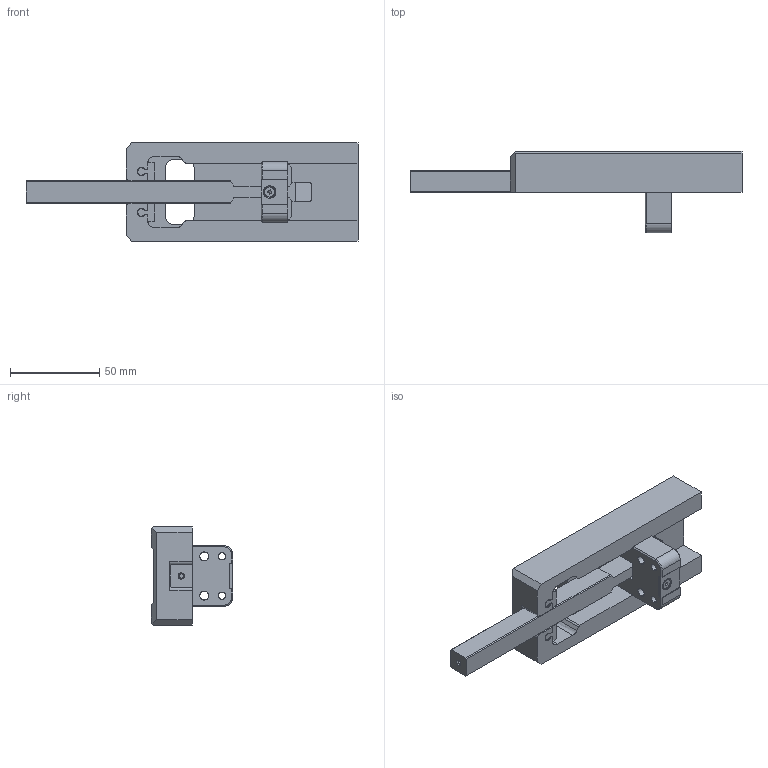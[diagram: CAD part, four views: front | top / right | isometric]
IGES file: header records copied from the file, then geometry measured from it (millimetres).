
Start section: SolidWorks IGES file using analytic representation for surfaces
Global section: file name: G:\CAD\Hakdrag\SA\SA-60\SA-60-130-15.IGS; native system: SolidWorks 2015; preprocessor: SolidWorks 2015; author: ChBe; date: 150616.065507; units: millimetre
Bounding box: 186.32 x 45.7 x 55 mm (x, y, z)
Surface area: 38819.2 mm2 (no closed solid volume)
Topology: 0 solids, 0 shells, 160 faces, 1774 edges, 1772 vertices
Faces by surface type: bspline 99, revolution 61
